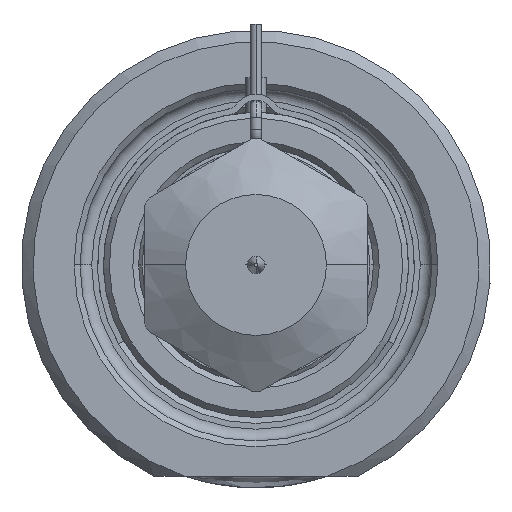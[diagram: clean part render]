
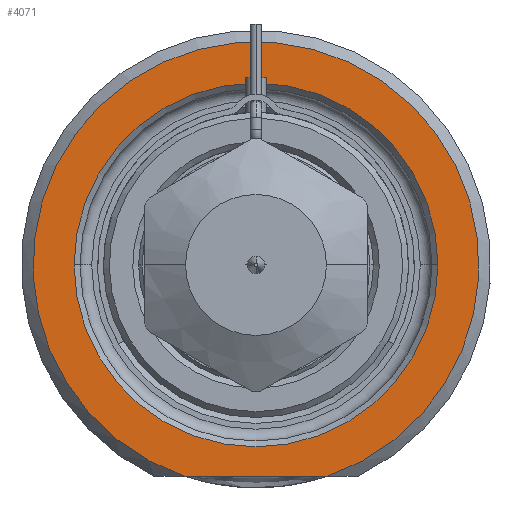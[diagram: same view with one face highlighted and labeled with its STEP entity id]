
A CAD part, front view. The second image highlights one B-rep face of the part: STEP entity #4071.
In plain terms, the highlighted planar face has unit normal (0, -1, 0).
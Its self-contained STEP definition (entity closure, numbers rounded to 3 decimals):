
#1=DIRECTION('',(1.,0.,0.));
#2=VECTOR('',#1,12.166);
#3=CARTESIAN_POINT('',(-6.083,0.,-18.));
#4=LINE('',#3,#2);
#5=CARTESIAN_POINT('',(0.,0.,0.));
#6=DIRECTION('',(0.,1.,0.));
#7=DIRECTION('',(-1.,0.,0.));
#8=AXIS2_PLACEMENT_3D('',#5,#6,#7);
#10=CARTESIAN_POINT('',(0.,0.,0.));
#11=DIRECTION('',(0.,1.,0.));
#12=DIRECTION('',(1.,0.,0.));
#13=AXIS2_PLACEMENT_3D('',#10,#11,#12);
#264=CARTESIAN_POINT('',(0.,0.,0.));
#265=DIRECTION('',(0.,-1.,0.));
#266=DIRECTION('',(0.32,0.,-0.947));
#267=AXIS2_PLACEMENT_3D('',#264,#265,#266);
#3430=CARTESIAN_POINT('',(-15.5,0.,0.));
#3431=CARTESIAN_POINT('',(15.5,0.,0.));
#3432=VERTEX_POINT('',#3430);
#3433=VERTEX_POINT('',#3431);
#3488=CARTESIAN_POINT('',(-6.083,0.,-18.));
#3489=CARTESIAN_POINT('',(6.083,0.,-18.));
#3490=VERTEX_POINT('',#3488);
#3491=VERTEX_POINT('',#3489);
#4054=CARTESIAN_POINT('',(0.,0.,0.));
#4055=DIRECTION('',(0.,-1.,0.));
#4056=DIRECTION('',(1.,0.,0.));
#4057=AXIS2_PLACEMENT_3D('',#4054,#4055,#4056);
#4058=PLANE('',#4057);
#4060=ORIENTED_EDGE('',*,*,#4059,.F.);
#4062=ORIENTED_EDGE('',*,*,#4061,.F.);
#4063=EDGE_LOOP('',(#4060,#4062));
#4064=FACE_OUTER_BOUND('',#4063,.F.);
#4066=ORIENTED_EDGE('',*,*,#4065,.F.);
#4068=ORIENTED_EDGE('',*,*,#4067,.F.);
#4069=EDGE_LOOP('',(#4066,#4068));
#4070=FACE_BOUND('',#4069,.F.);
#4071=ADVANCED_FACE('',(#4064,#4070),#4058,.T.);
#9=CIRCLE('',#8,15.5);
#14=CIRCLE('',#13,15.5);
#268=CIRCLE('',#267,19.);
#4059=EDGE_CURVE('',#3490,#3491,#4,.T.);
#4061=EDGE_CURVE('',#3491,#3490,#268,.T.);
#4065=EDGE_CURVE('',#3432,#3433,#9,.T.);
#4067=EDGE_CURVE('',#3433,#3432,#14,.T.);
